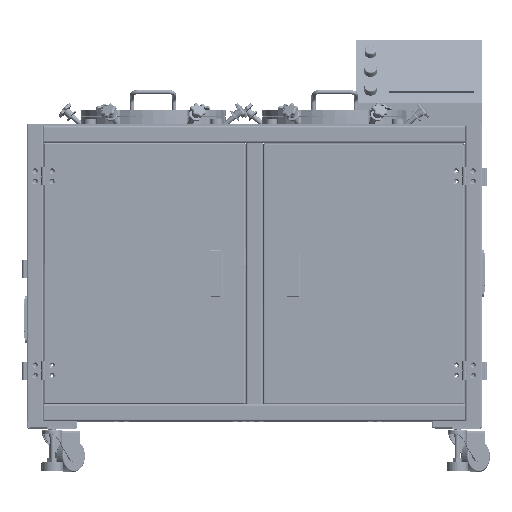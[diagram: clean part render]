
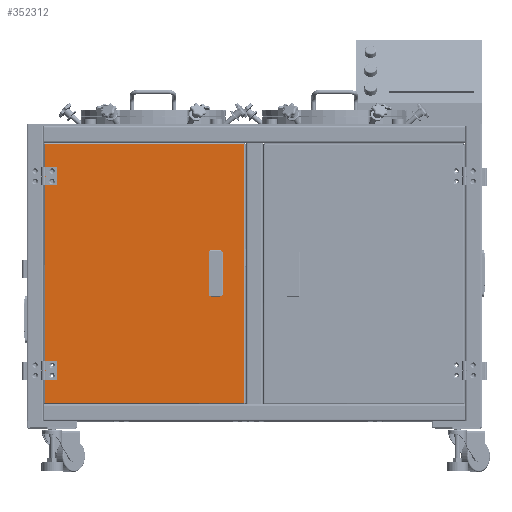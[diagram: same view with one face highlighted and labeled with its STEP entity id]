
A CAD part, top view. The second image highlights one B-rep face of the part: STEP entity #352312.
In plain terms, the highlighted planar face has unit normal (0, 0, 1).
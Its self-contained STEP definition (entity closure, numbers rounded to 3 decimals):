
#4933 = CARTESIAN_POINT ( 'NONE',  ( -581.033, 343.606, 303.994 ) ) ;
#17672 = FACE_OUTER_BOUND ( 'NONE', #576985, .T. ) ;
#19278 = CIRCLE ( 'NONE', #318592, 3.25 ) ;
#19375 = VECTOR ( 'NONE', #146485, 1000. ) ;
#20644 = CARTESIAN_POINT ( 'NONE',  ( -119.783, 410.106, 303.994 ) ) ;
#26788 = CIRCLE ( 'NONE', #297169, 3.25 ) ;
#27563 = DIRECTION ( 'NONE',  ( 0., 0., 1. ) ) ;
#28084 = VERTEX_POINT ( 'NONE', #87515 ) ;
#29802 = DIRECTION ( 'NONE',  ( 0., 0., 1. ) ) ;
#38665 = CARTESIAN_POINT ( 'NONE',  ( -577.783, 318.606, 303.994 ) ) ;
#39719 = ORIENTED_EDGE ( 'NONE', *, *, #333471, .F. ) ;
#39975 = EDGE_CURVE ( 'NONE', #491144, #285664, #19278, .T. ) ;
#40924 = LINE ( 'NONE', #225351, #111514 ) ;
#46252 = EDGE_CURVE ( 'NONE', #476001, #154002, #192204, .T. ) ;
#51089 = EDGE_CURVE ( 'NONE', #383363, #374039, #140304, .T. ) ;
#54752 = ORIENTED_EDGE ( 'NONE', *, *, #597998, .F. ) ;
#60170 = FACE_BOUND ( 'NONE', #541525, .T. ) ;
#61789 = CARTESIAN_POINT ( 'NONE',  ( -577.783, 343.606, 303.994 ) ) ;
#62824 = EDGE_CURVE ( 'NONE', #75634, #381518, #119385, .T. ) ;
#63116 = DIRECTION ( 'NONE',  ( -1., 0., 0. ) ) ;
#63436 = ORIENTED_EDGE ( 'NONE', *, *, #148795, .T. ) ;
#65698 = CARTESIAN_POINT ( 'NONE',  ( -122.783, -204.894, 303.994 ) ) ;
#68743 = DIRECTION ( 'NONE',  ( 0., 0., 1. ) ) ;
#74805 = AXIS2_PLACEMENT_3D ( 'NONE', #526898, #112442, #578223 ) ;
#75634 = VERTEX_POINT ( 'NONE', #539265 ) ;
#84258 = EDGE_LOOP ( 'NONE', ( #131737, #536987 ) ) ;
#87515 = CARTESIAN_POINT ( 'NONE',  ( -574.533, -141.394, 303.994 ) ) ;
#100624 = DIRECTION ( 'NONE',  ( -1., 0., 0. ) ) ;
#111514 = VECTOR ( 'NONE', #140586, 1000. ) ;
#112442 = DIRECTION ( 'NONE',  ( 0., 0., 1. ) ) ;
#119385 = LINE ( 'NONE', #579242, #196334 ) ;
#127133 = EDGE_CURVE ( 'NONE', #596313, #559943, #209666, .T. ) ;
#131321 = ORIENTED_EDGE ( 'NONE', *, *, #240918, .F. ) ;
#131737 = ORIENTED_EDGE ( 'NONE', *, *, #39975, .F. ) ;
#136629 = ORIENTED_EDGE ( 'NONE', *, *, #46252, .F. ) ;
#137196 = EDGE_CURVE ( 'NONE', #565659, #28084, #192424, .T. ) ;
#140304 = LINE ( 'NONE', #324900, #528256 ) ;
#140586 = DIRECTION ( 'NONE',  ( -1., 0., 0. ) ) ;
#142738 = ORIENTED_EDGE ( 'NONE', *, *, #62824, .F. ) ;
#146485 = DIRECTION ( 'NONE',  ( 0., 1., 0. ) ) ;
#148795 = EDGE_CURVE ( 'NONE', #198917, #383363, #40924, .T. ) ;
#154002 = VERTEX_POINT ( 'NONE', #489338 ) ;
#161194 = ORIENTED_EDGE ( 'NONE', *, *, #375232, .F. ) ;
#161772 = DIRECTION ( 'NONE',  ( 1., 0., 0. ) ) ;
#166344 = CARTESIAN_POINT ( 'NONE',  ( -574.533, 343.606, 303.994 ) ) ;
#168785 = CARTESIAN_POINT ( 'NONE',  ( -122.783, 407.106, 303.994 ) ) ;
#172802 = CARTESIAN_POINT ( 'NONE',  ( -577.783, -141.394, 303.994 ) ) ;
#174413 = ORIENTED_EDGE ( 'NONE', *, *, #127133, .F. ) ;
#180405 = AXIS2_PLACEMENT_3D ( 'NONE', #20644, #389744, #63116 ) ;
#183360 = AXIS2_PLACEMENT_3D ( 'NONE', #444991, #27563, #263400 ) ;
#192204 = LINE ( 'NONE', #376787, #313316 ) ;
#192424 = CIRCLE ( 'NONE', #269715, 3.25 ) ;
#196334 = VECTOR ( 'NONE', #161772, 1000. ) ;
#196618 = VERTEX_POINT ( 'NONE', #4933 ) ;
#198917 = VERTEX_POINT ( 'NONE', #168785 ) ;
#201535 = CARTESIAN_POINT ( 'NONE',  ( -574.533, 318.606, 303.994 ) ) ;
#205126 = FACE_BOUND ( 'NONE', #256067, .T. ) ;
#209666 = CIRCLE ( 'NONE', #383776, 3.25 ) ;
#215301 = DIRECTION ( 'NONE',  ( 1., 0., 0. ) ) ;
#222417 = CARTESIAN_POINT ( 'NONE',  ( -574.533, -116.394, 303.994 ) ) ;
#223272 = EDGE_CURVE ( 'NONE', #196618, #526396, #405377, .T. ) ;
#224296 = AXIS2_PLACEMENT_3D ( 'NONE', #61789, #246272, #309567 ) ;
#225351 = CARTESIAN_POINT ( 'NONE',  ( -119.783, 407.106, 303.994 ) ) ;
#240918 = EDGE_CURVE ( 'NONE', #582649, #374039, #330566, .T. ) ;
#241656 = FACE_BOUND ( 'NONE', #531307, .T. ) ;
#244621 = FACE_BOUND ( 'NONE', #84258, .T. ) ;
#246272 = DIRECTION ( 'NONE',  ( 0., 0., 1. ) ) ;
#256067 = EDGE_LOOP ( 'NONE', ( #39719, #481856 ) ) ;
#263400 = DIRECTION ( 'NONE',  ( 1., 0., 0. ) ) ;
#267294 = CARTESIAN_POINT ( 'NONE',  ( -581.033, 318.606, 303.994 ) ) ;
#268116 = AXIS2_PLACEMENT_3D ( 'NONE', #583375, #29802, #341594 ) ;
#269715 = AXIS2_PLACEMENT_3D ( 'NONE', #172802, #538949, #451127 ) ;
#271573 = DIRECTION ( 'NONE',  ( 0., 1., 0. ) ) ;
#279504 = DIRECTION ( 'NONE',  ( 0., -1., 0. ) ) ;
#285664 = VERTEX_POINT ( 'NONE', #580028 ) ;
#287653 = CARTESIAN_POINT ( 'NONE',  ( -176.283, 49.606, 303.994 ) ) ;
#297169 = AXIS2_PLACEMENT_3D ( 'NONE', #442319, #357483, #215301 ) ;
#297525 = ORIENTED_EDGE ( 'NONE', *, *, #393363, .F. ) ;
#309567 = DIRECTION ( 'NONE',  ( 1., 0., 0. ) ) ;
#313316 = VECTOR ( 'NONE', #425170, 1000. ) ;
#318592 = AXIS2_PLACEMENT_3D ( 'NONE', #338112, #68743, #486121 ) ;
#324900 = CARTESIAN_POINT ( 'NONE',  ( -593.783, 407.106, 303.994 ) ) ;
#330566 = LINE ( 'NONE', #515075, #537122 ) ;
#333471 = EDGE_CURVE ( 'NONE', #526396, #196618, #485214, .T. ) ;
#338112 = CARTESIAN_POINT ( 'NONE',  ( -577.783, -116.394, 303.994 ) ) ;
#341594 = DIRECTION ( 'NONE',  ( 1., 0., 0. ) ) ;
#344450 = ORIENTED_EDGE ( 'NONE', *, *, #529113, .T. ) ;
#352312 = ADVANCED_FACE ( 'NONE', ( #368907, #205126, #241656, #244621, #60170, #17672 ), #435144, .F. ) ;
#357368 = ORIENTED_EDGE ( 'NONE', *, *, #51089, .T. ) ;
#357483 = DIRECTION ( 'NONE',  ( 0., 0., 1. ) ) ;
#361505 = VECTOR ( 'NONE', #503028, 1000. ) ;
#368907 = FACE_BOUND ( 'NONE', #490521, .T. ) ;
#374039 = VERTEX_POINT ( 'NONE', #392852 ) ;
#375232 = EDGE_CURVE ( 'NONE', #28084, #565659, #431933, .T. ) ;
#376787 = CARTESIAN_POINT ( 'NONE',  ( -203.283, 152.606, 303.994 ) ) ;
#380872 = CARTESIAN_POINT ( 'NONE',  ( -176.283, 152.606, 303.994 ) ) ;
#381518 = VERTEX_POINT ( 'NONE', #287653 ) ;
#383363 = VERTEX_POINT ( 'NONE', #407730 ) ;
#383776 = AXIS2_PLACEMENT_3D ( 'NONE', #38665, #453107, #572124 ) ;
#389744 = DIRECTION ( 'NONE',  ( 0., 0., -1. ) ) ;
#392852 = CARTESIAN_POINT ( 'NONE',  ( -593.783, -204.894, 303.994 ) ) ;
#393363 = EDGE_CURVE ( 'NONE', #559943, #596313, #26788, .T. ) ;
#396570 = LINE ( 'NONE', #581083, #397685 ) ;
#397685 = VECTOR ( 'NONE', #271573, 1000. ) ;
#405377 = CIRCLE ( 'NONE', #183360, 3.25 ) ;
#407730 = CARTESIAN_POINT ( 'NONE',  ( -593.783, 407.106, 303.994 ) ) ;
#417612 = EDGE_CURVE ( 'NONE', #154002, #75634, #500045, .T. ) ;
#421958 = EDGE_CURVE ( 'NONE', #285664, #491144, #587274, .T. ) ;
#425170 = DIRECTION ( 'NONE',  ( -1., 0., 0. ) ) ;
#431933 = CIRCLE ( 'NONE', #74805, 3.25 ) ;
#435144 = PLANE ( 'NONE',  #180405 ) ;
#438540 = CARTESIAN_POINT ( 'NONE',  ( -581.033, -141.394, 303.994 ) ) ;
#442319 = CARTESIAN_POINT ( 'NONE',  ( -577.783, 318.606, 303.994 ) ) ;
#444991 = CARTESIAN_POINT ( 'NONE',  ( -577.783, 343.606, 303.994 ) ) ;
#451127 = DIRECTION ( 'NONE',  ( 1., 0., 0. ) ) ;
#453107 = DIRECTION ( 'NONE',  ( 0., 0., 1. ) ) ;
#457644 = CARTESIAN_POINT ( 'NONE',  ( -203.283, 152.606, 303.994 ) ) ;
#476001 = VERTEX_POINT ( 'NONE', #380872 ) ;
#481856 = ORIENTED_EDGE ( 'NONE', *, *, #223272, .F. ) ;
#485214 = CIRCLE ( 'NONE', #224296, 3.25 ) ;
#486121 = DIRECTION ( 'NONE',  ( 1., 0., 0. ) ) ;
#489338 = CARTESIAN_POINT ( 'NONE',  ( -203.283, 152.606, 303.994 ) ) ;
#490521 = EDGE_LOOP ( 'NONE', ( #142738, #591348, #136629, #54752 ) ) ;
#491144 = VERTEX_POINT ( 'NONE', #222417 ) ;
#494303 = ORIENTED_EDGE ( 'NONE', *, *, #137196, .F. ) ;
#500045 = LINE ( 'NONE', #457644, #361505 ) ;
#503028 = DIRECTION ( 'NONE',  ( 0., -1., 0. ) ) ;
#515075 = CARTESIAN_POINT ( 'NONE',  ( -119.783, -204.894, 303.994 ) ) ;
#526396 = VERTEX_POINT ( 'NONE', #166344 ) ;
#526898 = CARTESIAN_POINT ( 'NONE',  ( -577.783, -141.394, 303.994 ) ) ;
#527481 = CARTESIAN_POINT ( 'NONE',  ( -176.283, 152.606, 303.994 ) ) ;
#528256 = VECTOR ( 'NONE', #279504, 1000. ) ;
#529113 = EDGE_CURVE ( 'NONE', #582649, #198917, #396570, .T. ) ;
#531307 = EDGE_LOOP ( 'NONE', ( #297525, #174413 ) ) ;
#536987 = ORIENTED_EDGE ( 'NONE', *, *, #421958, .F. ) ;
#537122 = VECTOR ( 'NONE', #100624, 1000. ) ;
#538949 = DIRECTION ( 'NONE',  ( 0., 0., 1. ) ) ;
#539265 = CARTESIAN_POINT ( 'NONE',  ( -203.283, 49.606, 303.994 ) ) ;
#541525 = EDGE_LOOP ( 'NONE', ( #161194, #494303 ) ) ;
#559943 = VERTEX_POINT ( 'NONE', #201535 ) ;
#565659 = VERTEX_POINT ( 'NONE', #438540 ) ;
#572124 = DIRECTION ( 'NONE',  ( 1., 0., 0. ) ) ;
#572884 = LINE ( 'NONE', #527481, #19375 ) ;
#576985 = EDGE_LOOP ( 'NONE', ( #357368, #131321, #344450, #63436 ) ) ;
#578223 = DIRECTION ( 'NONE',  ( 1., 0., 0. ) ) ;
#579242 = CARTESIAN_POINT ( 'NONE',  ( -203.283, 49.606, 303.994 ) ) ;
#580028 = CARTESIAN_POINT ( 'NONE',  ( -581.033, -116.394, 303.994 ) ) ;
#581083 = CARTESIAN_POINT ( 'NONE',  ( -122.783, -204.894, 303.994 ) ) ;
#582649 = VERTEX_POINT ( 'NONE', #65698 ) ;
#583375 = CARTESIAN_POINT ( 'NONE',  ( -577.783, -116.394, 303.994 ) ) ;
#587274 = CIRCLE ( 'NONE', #268116, 3.25 ) ;
#591348 = ORIENTED_EDGE ( 'NONE', *, *, #417612, .F. ) ;
#596313 = VERTEX_POINT ( 'NONE', #267294 ) ;
#597998 = EDGE_CURVE ( 'NONE', #381518, #476001, #572884, .T. ) ;
